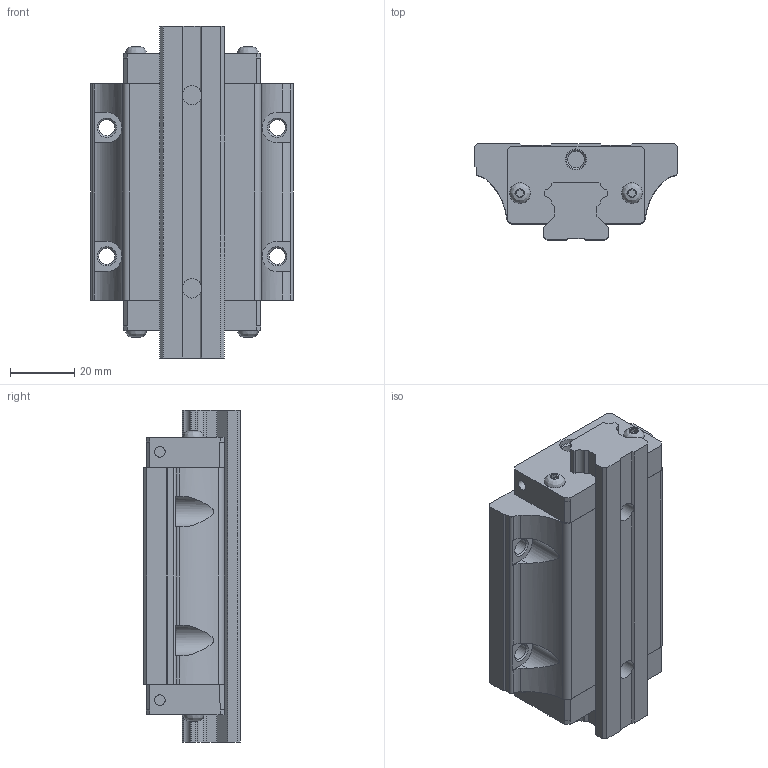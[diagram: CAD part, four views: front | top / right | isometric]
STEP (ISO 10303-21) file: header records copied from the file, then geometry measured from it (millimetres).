
FILE_DESCRIPTION( ( 'STEP AP214' ), '1' );
FILE_NAME( 'C:/Users/mimi4/OneDrive/Desktop/BSQ賅筐葭/MCH/MCH20LF.stp', '2019-11-26T06:17:59', ( ' ' ), ( ' ' ), 'XStep 1.0', 'VISICAD', ' ' );
FILE_SCHEMA( ( 'automotive_design' ) );
Length unit declared in the file: metre
Products named in the file (2): 1; 2
Bounding box: 63 x 30 x 103.2 mm (x, y, z)
Volume: 118512 mm3; surface area: 29007.5 mm2
Topology: 2 solids, 2 shells, 222 faces, 590 edges, 388 vertices
Faces by surface type: plane 162, cylinder 46, cone 10, bspline 4
Full cylindrical faces by diameter (mm): 3.3 x4, 5 x4, 5.188 x2, 6 x4, 6.5 x6, 9.5 x2
Entity records: 8648 total; most frequent: CARTESIAN_POINT 1428, DIRECTION 1108, ORIENTED_EDGE 1080, EDGE_CURVE 540, LINE 400, VECTOR 400, VERTEX_POINT 374, AXIS2_PLACEMENT_3D 354
